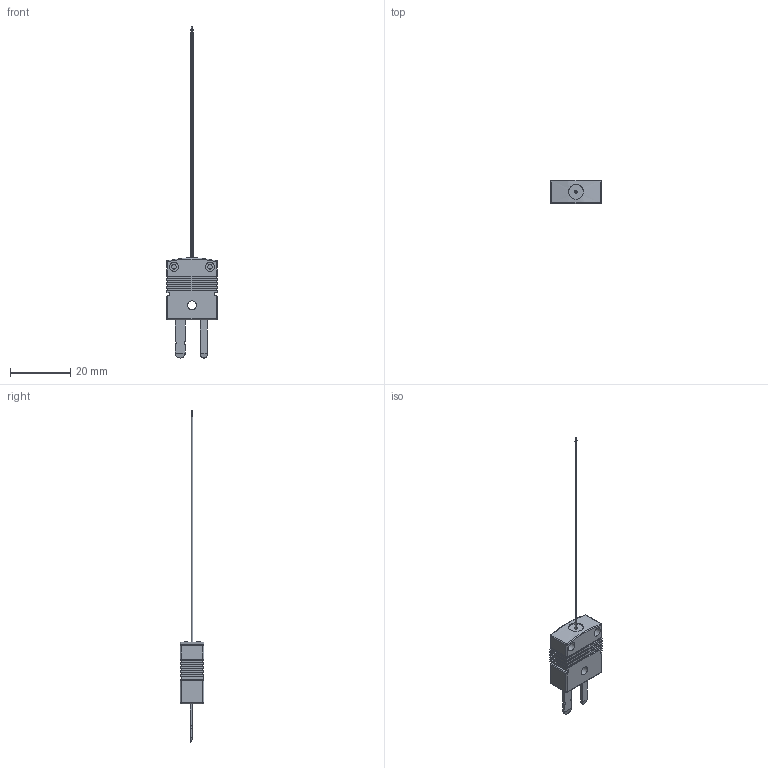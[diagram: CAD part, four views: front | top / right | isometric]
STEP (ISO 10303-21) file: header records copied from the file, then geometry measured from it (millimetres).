
FILE_DESCRIPTION (( 'STEP AP203' ), '1' );
FILE_NAME ('YIST56B-2(0).STEP', '2023-04-06T08:47:34', ( '' ), ( '' ), 'SwSTEP 2.0', 'SolidWorks 2021', '' );
FILE_SCHEMA (( 'CONFIG_CONTROL_DESIGN' ));
Length unit declared in the file: millimetre
Products named in the file (1): YIST56B-2(0)
Bounding box: 16.8 x 7.9 x 110.37 mm (x, y, z)
Volume: 2531.6 mm3; surface area: 1961.9 mm2
Topology: 1 solids, 1 shells, 163 faces, 420 edges, 263 vertices
Faces by surface type: plane 111, cylinder 36, sphere 8, torus 4, bspline 4
Full cylindrical faces by diameter (mm): 1 x1, 1.5 x2, 3 x5, 4.93 x1
Entity records: 5116 total; most frequent: CARTESIAN_POINT 1296, ORIENTED_EDGE 778, DIRECTION 728, EDGE_CURVE 389, VECTOR 286, LINE 286, VERTEX_POINT 255, AXIS2_PLACEMENT_3D 221
